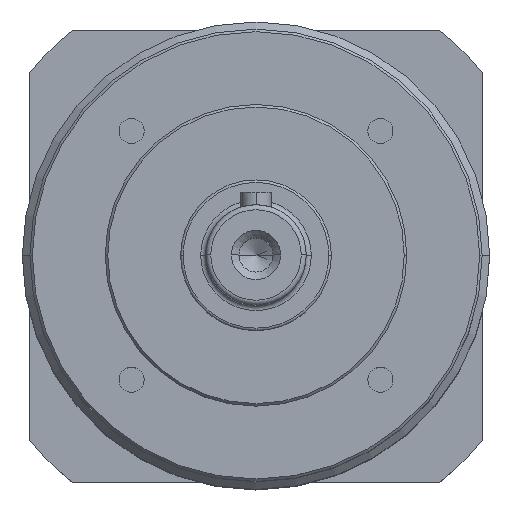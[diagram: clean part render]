
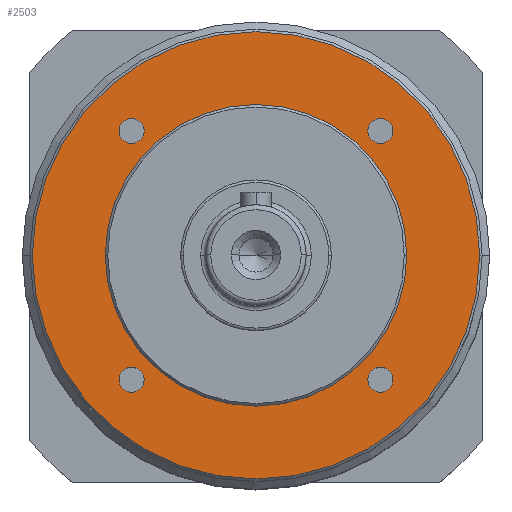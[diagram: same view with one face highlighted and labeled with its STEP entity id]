
A CAD part, top view. The second image highlights one B-rep face of the part: STEP entity #2503.
In plain terms, the highlighted planar face has unit normal (0, 0, 1).
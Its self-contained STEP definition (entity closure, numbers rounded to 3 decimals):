
#25 = DIRECTION ( 'NONE',  ( 1., 0., 0. ) ) ;
#149 = ORIENTED_EDGE ( 'NONE', *, *, #2681, .F. ) ;
#158 = CIRCLE ( 'NONE', #367, 2.5 ) ;
#232 = VERTEX_POINT ( 'NONE', #547 ) ;
#262 = DIRECTION ( 'NONE',  ( 0., 0., 1. ) ) ;
#270 = AXIS2_PLACEMENT_3D ( 'NONE', #672, #2575, #1638 ) ;
#367 = AXIS2_PLACEMENT_3D ( 'NONE', #1663, #2887, #3015 ) ;
#392 = CIRCLE ( 'NONE', #2340, 2.5 ) ;
#396 = EDGE_LOOP ( 'NONE', ( #2674, #1814 ) ) ;
#494 = PLANE ( 'NONE',  #1550 ) ;
#522 = EDGE_CURVE ( 'NONE', #1307, #1856, #1518, .T. ) ;
#544 = VERTEX_POINT ( 'NONE', #695 ) ;
#547 = CARTESIAN_POINT ( 'NONE',  ( -22.249, -24.749, 24.5 ) ) ;
#566 = CIRCLE ( 'NONE', #2571, 2.5 ) ;
#586 = DIRECTION ( 'NONE',  ( 1., 0., 0. ) ) ;
#659 = VERTEX_POINT ( 'NONE', #953 ) ;
#660 = DIRECTION ( 'NONE',  ( 1., 0., 0. ) ) ;
#672 = CARTESIAN_POINT ( 'NONE',  ( -24.749, 24.749, 24.5 ) ) ;
#695 = CARTESIAN_POINT ( 'NONE',  ( 22.249, -24.749, 24.5 ) ) ;
#705 = CARTESIAN_POINT ( 'NONE',  ( 30., 0., 24.5 ) ) ;
#740 = VERTEX_POINT ( 'NONE', #705 ) ;
#761 = CARTESIAN_POINT ( 'NONE',  ( 24.749, -24.749, 24.5 ) ) ;
#769 = AXIS2_PLACEMENT_3D ( 'NONE', #1364, #2996, #2306 ) ;
#771 = CARTESIAN_POINT ( 'NONE',  ( 27.249, -24.749, 24.5 ) ) ;
#785 = AXIS2_PLACEMENT_3D ( 'NONE', #1123, #2049, #1835 ) ;
#822 = DIRECTION ( 'NONE',  ( 0., 0., 1. ) ) ;
#883 = EDGE_CURVE ( 'NONE', #232, #2739, #392, .T. ) ;
#953 = CARTESIAN_POINT ( 'NONE',  ( 27.249, 24.749, 24.5 ) ) ;
#954 = DIRECTION ( 'NONE',  ( 0., 0., 1. ) ) ;
#969 = VERTEX_POINT ( 'NONE', #2729 ) ;
#991 = CARTESIAN_POINT ( 'NONE',  ( -44.5, 0., 24.5 ) ) ;
#1076 = CARTESIAN_POINT ( 'NONE',  ( 24.749, 24.749, 24.5 ) ) ;
#1123 = CARTESIAN_POINT ( 'NONE',  ( -24.749, -24.749, 24.5 ) ) ;
#1125 = VERTEX_POINT ( 'NONE', #1355 ) ;
#1168 = DIRECTION ( 'NONE',  ( 0., 0., 1. ) ) ;
#1193 = VERTEX_POINT ( 'NONE', #1398 ) ;
#1218 = FACE_BOUND ( 'NONE', #396, .T. ) ;
#1220 = EDGE_CURVE ( 'NONE', #1856, #1307, #2248, .T. ) ;
#1246 = AXIS2_PLACEMENT_3D ( 'NONE', #1809, #1606, #660 ) ;
#1275 = ORIENTED_EDGE ( 'NONE', *, *, #1833, .F. ) ;
#1303 = ORIENTED_EDGE ( 'NONE', *, *, #2818, .F. ) ;
#1307 = VERTEX_POINT ( 'NONE', #991 ) ;
#1317 = CIRCLE ( 'NONE', #785, 2.5 ) ;
#1355 = CARTESIAN_POINT ( 'NONE',  ( -30., 0., 24.5 ) ) ;
#1362 = CIRCLE ( 'NONE', #2884, 2.5 ) ;
#1364 = CARTESIAN_POINT ( 'NONE',  ( 0., 0., 24.5 ) ) ;
#1398 = CARTESIAN_POINT ( 'NONE',  ( -27.249, 24.749, 24.5 ) ) ;
#1409 = CARTESIAN_POINT ( 'NONE',  ( 0., 0., 24.5 ) ) ;
#1424 = AXIS2_PLACEMENT_3D ( 'NONE', #1409, #262, #25 ) ;
#1518 = CIRCLE ( 'NONE', #1246, 44.5 ) ;
#1550 = AXIS2_PLACEMENT_3D ( 'NONE', #1910, #1168, #2820 ) ;
#1567 = DIRECTION ( 'NONE',  ( 0., 0., 1. ) ) ;
#1573 = DIRECTION ( 'NONE',  ( 0., 0., 1. ) ) ;
#1605 = CIRCLE ( 'NONE', #2703, 30. ) ;
#1606 = DIRECTION ( 'NONE',  ( 0., 0., 1. ) ) ;
#1607 = FACE_BOUND ( 'NONE', #2121, .T. ) ;
#1638 = DIRECTION ( 'NONE',  ( 1., 0., 0. ) ) ;
#1646 = CARTESIAN_POINT ( 'NONE',  ( 24.749, -24.749, 24.5 ) ) ;
#1663 = CARTESIAN_POINT ( 'NONE',  ( -24.749, 24.749, 24.5 ) ) ;
#1686 = EDGE_CURVE ( 'NONE', #969, #1193, #2509, .T. ) ;
#1690 = FACE_OUTER_BOUND ( 'NONE', #2516, .T. ) ;
#1705 = CARTESIAN_POINT ( 'NONE',  ( -24.749, -24.749, 24.5 ) ) ;
#1726 = CIRCLE ( 'NONE', #2586, 2.5 ) ;
#1738 = CARTESIAN_POINT ( 'NONE',  ( -27.249, -24.749, 24.5 ) ) ;
#1750 = VERTEX_POINT ( 'NONE', #3012 ) ;
#1797 = ORIENTED_EDGE ( 'NONE', *, *, #2752, .F. ) ;
#1808 = ORIENTED_EDGE ( 'NONE', *, *, #2335, .F. ) ;
#1809 = CARTESIAN_POINT ( 'NONE',  ( 0., 0., 24.5 ) ) ;
#1814 = ORIENTED_EDGE ( 'NONE', *, *, #2090, .F. ) ;
#1833 = EDGE_CURVE ( 'NONE', #1961, #544, #1726, .T. ) ;
#1835 = DIRECTION ( 'NONE',  ( 1., 0., 0. ) ) ;
#1856 = VERTEX_POINT ( 'NONE', #2608 ) ;
#1910 = CARTESIAN_POINT ( 'NONE',  ( 0., 0., 24.5 ) ) ;
#1912 = FACE_BOUND ( 'NONE', #2379, .T. ) ;
#1961 = VERTEX_POINT ( 'NONE', #771 ) ;
#1971 = DIRECTION ( 'NONE',  ( 0., 0., 1. ) ) ;
#2048 = EDGE_CURVE ( 'NONE', #659, #1750, #1362, .T. ) ;
#2049 = DIRECTION ( 'NONE',  ( 0., 0., 1. ) ) ;
#2090 = EDGE_CURVE ( 'NONE', #1193, #969, #158, .T. ) ;
#2109 = ORIENTED_EDGE ( 'NONE', *, *, #2048, .F. ) ;
#2121 = EDGE_LOOP ( 'NONE', ( #2109, #149 ) ) ;
#2123 = EDGE_CURVE ( 'NONE', #2739, #232, #1317, .T. ) ;
#2148 = DIRECTION ( 'NONE',  ( 1., 0., 0. ) ) ;
#2174 = FACE_BOUND ( 'NONE', #2980, .T. ) ;
#2247 = DIRECTION ( 'NONE',  ( 1., 0., 0. ) ) ;
#2248 = CIRCLE ( 'NONE', #1424, 44.5 ) ;
#2282 = DIRECTION ( 'NONE',  ( 1., 0., 0. ) ) ;
#2306 = DIRECTION ( 'NONE',  ( 1., 0., 0. ) ) ;
#2311 = FACE_BOUND ( 'NONE', #2455, .T. ) ;
#2335 = EDGE_CURVE ( 'NONE', #544, #1961, #566, .T. ) ;
#2340 = AXIS2_PLACEMENT_3D ( 'NONE', #1705, #1567, #2247 ) ;
#2379 = EDGE_LOOP ( 'NONE', ( #1797, #1303 ) ) ;
#2382 = DIRECTION ( 'NONE',  ( 1., 0., 0. ) ) ;
#2410 = ORIENTED_EDGE ( 'NONE', *, *, #2123, .F. ) ;
#2455 = EDGE_LOOP ( 'NONE', ( #1275, #1808 ) ) ;
#2456 = CARTESIAN_POINT ( 'NONE',  ( 24.749, 24.749, 24.5 ) ) ;
#2503 = ADVANCED_FACE ( 'NONE', ( #1912, #1218, #2174, #2311, #1607, #1690 ), #494, .T. ) ;
#2507 = DIRECTION ( 'NONE',  ( 1., 0., 0. ) ) ;
#2509 = CIRCLE ( 'NONE', #270, 2.5 ) ;
#2516 = EDGE_LOOP ( 'NONE', ( #2730, #2731 ) ) ;
#2571 = AXIS2_PLACEMENT_3D ( 'NONE', #761, #954, #2148 ) ;
#2575 = DIRECTION ( 'NONE',  ( 0., 0., 1. ) ) ;
#2586 = AXIS2_PLACEMENT_3D ( 'NONE', #1646, #2850, #2382 ) ;
#2608 = CARTESIAN_POINT ( 'NONE',  ( 44.5, 0., 24.5 ) ) ;
#2674 = ORIENTED_EDGE ( 'NONE', *, *, #1686, .F. ) ;
#2681 = EDGE_CURVE ( 'NONE', #1750, #659, #2687, .T. ) ;
#2687 = CIRCLE ( 'NONE', #2954, 2.5 ) ;
#2690 = CARTESIAN_POINT ( 'NONE',  ( 0., 0., 24.5 ) ) ;
#2703 = AXIS2_PLACEMENT_3D ( 'NONE', #2690, #1971, #586 ) ;
#2729 = CARTESIAN_POINT ( 'NONE',  ( -22.249, 24.749, 24.5 ) ) ;
#2730 = ORIENTED_EDGE ( 'NONE', *, *, #522, .T. ) ;
#2731 = ORIENTED_EDGE ( 'NONE', *, *, #1220, .T. ) ;
#2739 = VERTEX_POINT ( 'NONE', #1738 ) ;
#2740 = ORIENTED_EDGE ( 'NONE', *, *, #883, .F. ) ;
#2752 = EDGE_CURVE ( 'NONE', #1125, #740, #1605, .T. ) ;
#2818 = EDGE_CURVE ( 'NONE', #740, #1125, #2908, .T. ) ;
#2820 = DIRECTION ( 'NONE',  ( 1., 0., 0. ) ) ;
#2850 = DIRECTION ( 'NONE',  ( 0., 0., 1. ) ) ;
#2884 = AXIS2_PLACEMENT_3D ( 'NONE', #1076, #1573, #2507 ) ;
#2887 = DIRECTION ( 'NONE',  ( 0., 0., 1. ) ) ;
#2908 = CIRCLE ( 'NONE', #769, 30. ) ;
#2954 = AXIS2_PLACEMENT_3D ( 'NONE', #2456, #822, #2282 ) ;
#2980 = EDGE_LOOP ( 'NONE', ( #2740, #2410 ) ) ;
#2996 = DIRECTION ( 'NONE',  ( 0., 0., 1. ) ) ;
#3012 = CARTESIAN_POINT ( 'NONE',  ( 22.249, 24.749, 24.5 ) ) ;
#3015 = DIRECTION ( 'NONE',  ( 1., 0., 0. ) ) ;
